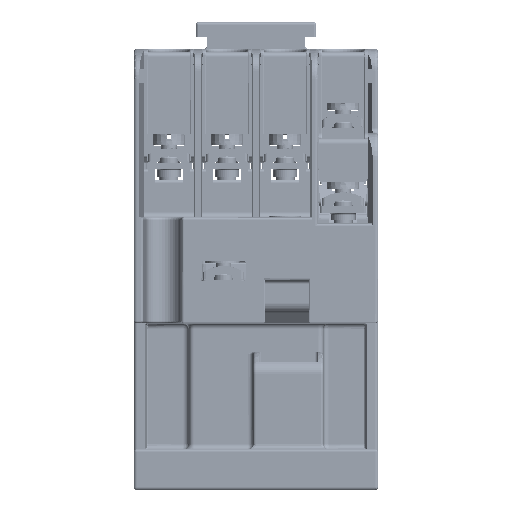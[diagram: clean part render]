
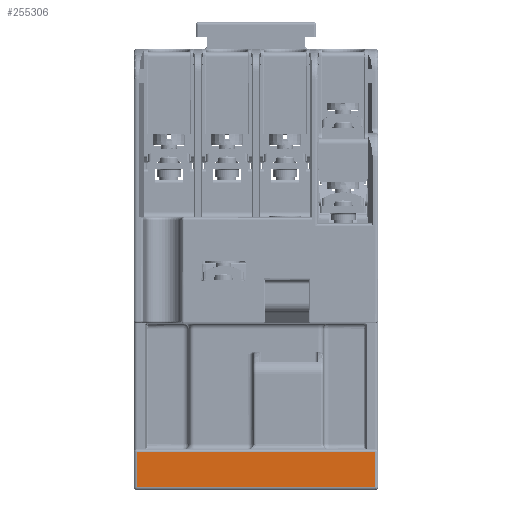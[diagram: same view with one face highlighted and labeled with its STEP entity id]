
A CAD part, front view. The second image highlights one B-rep face of the part: STEP entity #255306.
In plain terms, the highlighted planar face has unit normal (0, -1, 0) as drawn and (-1, 0, 0) by its records, which use the part's own axes.
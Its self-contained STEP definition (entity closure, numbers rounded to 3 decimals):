
#15129 = ORIENTED_EDGE ( 'NONE', *, *, #110557, .T. ) ;
#19789 = VECTOR ( 'NONE', #240553, 1000. ) ;
#30081 = AXIS2_PLACEMENT_3D ( 'NONE', #403822, #203552, #333524 ) ;
#35002 = LINE ( 'NONE', #90528, #352660 ) ;
#40535 = VECTOR ( 'NONE', #366323, 1000. ) ;
#43174 = EDGE_LOOP ( 'NONE', ( #15129, #358124, #360410, #345093 ) ) ;
#50622 = LINE ( 'NONE', #308457, #376188 ) ;
#54776 = CARTESIAN_POINT ( 'NONE',  ( -36.5, 22., 39.9 ) ) ;
#55055 = CARTESIAN_POINT ( 'NONE',  ( -36.5, -22., 39.9 ) ) ;
#90528 = CARTESIAN_POINT ( 'NONE',  ( -36.5, -22., 39.9 ) ) ;
#106307 = CARTESIAN_POINT ( 'NONE',  ( -36.5, 22., 39.9 ) ) ;
#107626 = PLANE ( 'NONE',  #30081 ) ;
#110557 = EDGE_CURVE ( 'NONE', #329893, #273150, #50622, .T. ) ;
#130198 = EDGE_CURVE ( 'NONE', #144183, #273150, #35002, .T. ) ;
#144183 = VERTEX_POINT ( 'NONE', #55055 ) ;
#169416 = FACE_OUTER_BOUND ( 'NONE', #43174, .T. ) ;
#169795 = VERTEX_POINT ( 'NONE', #54776 ) ;
#174390 = LINE ( 'NONE', #106307, #40535 ) ;
#176570 = CARTESIAN_POINT ( 'NONE',  ( -36.5, 22., 33.4 ) ) ;
#203552 = DIRECTION ( 'NONE',  ( -1., 0., 0. ) ) ;
#220504 = DIRECTION ( 'NONE',  ( 0., 0., -1. ) ) ;
#240553 = DIRECTION ( 'NONE',  ( 0., 0., 1. ) ) ;
#248929 = LINE ( 'NONE', #176570, #19789 ) ;
#255306 = ADVANCED_FACE ( 'NONE', ( #169416 ), #107626, .T. ) ;
#273150 = VERTEX_POINT ( 'NONE', #303458 ) ;
#276517 = DIRECTION ( 'NONE',  ( 0., -1., 0. ) ) ;
#286232 = EDGE_CURVE ( 'NONE', #329893, #169795, #248929, .T. ) ;
#303458 = CARTESIAN_POINT ( 'NONE',  ( -36.5, -22., 33.4 ) ) ;
#308457 = CARTESIAN_POINT ( 'NONE',  ( -36.5, 22., 33.4 ) ) ;
#326089 = EDGE_CURVE ( 'NONE', #169795, #144183, #174390, .T. ) ;
#329893 = VERTEX_POINT ( 'NONE', #367817 ) ;
#333524 = DIRECTION ( 'NONE',  ( 0., 0., 1. ) ) ;
#345093 = ORIENTED_EDGE ( 'NONE', *, *, #286232, .F. ) ;
#352660 = VECTOR ( 'NONE', #220504, 1000. ) ;
#358124 = ORIENTED_EDGE ( 'NONE', *, *, #130198, .F. ) ;
#360410 = ORIENTED_EDGE ( 'NONE', *, *, #326089, .F. ) ;
#366323 = DIRECTION ( 'NONE',  ( 0., -1., 0. ) ) ;
#367817 = CARTESIAN_POINT ( 'NONE',  ( -36.5, 22., 33.4 ) ) ;
#376188 = VECTOR ( 'NONE', #276517, 1000. ) ;
#403822 = CARTESIAN_POINT ( 'NONE',  ( -36.5, -22.5, 0. ) ) ;
